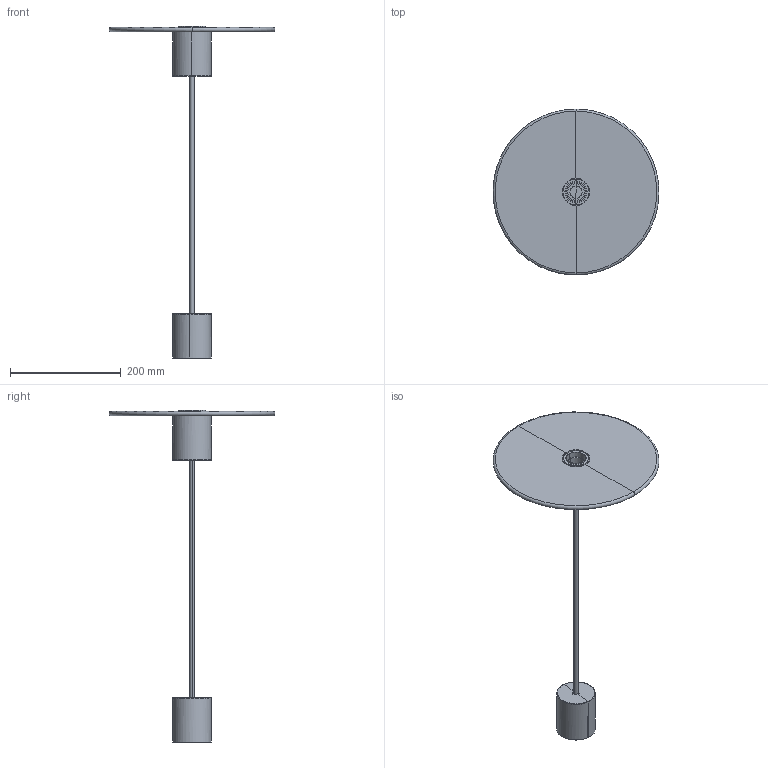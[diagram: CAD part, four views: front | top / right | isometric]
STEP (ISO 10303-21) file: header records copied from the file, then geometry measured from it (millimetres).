
FILE_DESCRIPTION(/* description */ (''),/* implementation_level */ '2;1');
FILE_NAME(/* name */ 'C:\Users\FrancoSartori\Documents\FARO\01_En Proceso\0000_2022\000_CONFETTI\03_Publicación\68602-52.stp',/* time_stamp */ '2022-09-12T11:01:53+02:00',/* author */ ('FrancoSartori'),/* organization */ (''),/* preprocessor_version */ 'ST-DEVELOPER v19.2',/* originating_system */ 'AutoCAD Mechanical',/* authorisation */ '');
FILE_SCHEMA (('AUTOMOTIVE_DESIGN { 1 0 10303 214 3 1 1 }'));
Length unit declared in the file: millimetre
Products named in the file (3): Product; CONFETTI_CSUPPORT - CONFETTI ceiling support-589635-Export; CONFETTI_ - CONFETTI Lamp Holder-591357-Export
Assembly tree (2 placements, depth 2):
  Product
    CONFETTI_CSUPPORT - CONFETTI ceiling support-589635-Export
    CONFETTI_ - CONFETTI Lamp Holder-591357-Export
Bounding box: 299.86 x 299.99 x 600 mm (x, y, z)
Volume: 671707.5 mm3; surface area: 267152.7 mm2
Topology: 7 solids, 7 shells, 120 faces, 254 edges, 138 vertices
Faces by surface type: plane 54, cylinder 50, torus 14, cone 2
Entity records: 4334 total; most frequent: CARTESIAN_POINT 1759, DIRECTION 540, ORIENTED_EDGE 508, EDGE_CURVE 254, AXIS2_PLACEMENT_3D 219, VERTEX_POINT 138, FACE_OUTER_BOUND 120, EDGE_LOOP 120
